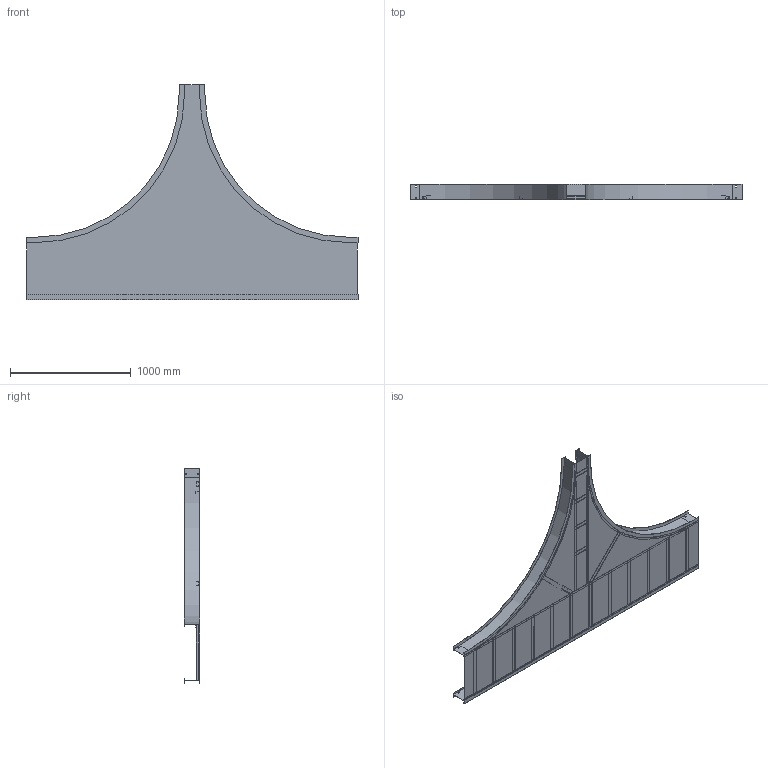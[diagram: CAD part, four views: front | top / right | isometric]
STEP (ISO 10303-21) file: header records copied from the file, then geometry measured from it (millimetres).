
FILE_DESCRIPTION((''),'2;1');
FILE_NAME('AHF51806SRT48_ASM','2010-02-10T',('erouzier'),(''),'PRO/ENGINEER BY PARAMETRIC TECHNOLOGY CORPORATION, 2008510','PRO/ENGINEER BY PARAMETRIC TECHNOLOGY CORPORATION, 2008510','');
FILE_SCHEMA(('CONFIG_CONTROL_DESIGN'));
Length unit declared in the file: inch
Products named in the file (22): CDS001811-5-90-48-I; CDS013846-5-108; CDS000495_GEN_AF9; CDS002159L18_AF16; CDS002159L18_AF17; CDS002159L18_AF18; CDS002159L18_AF19; CDS002159L18; CDS002159L18_AF20; CDS002159L18_AF21; CDS002159L18_AF22; CDS002159L18_AF23; CDS000495_GEN_AF10; CDS000495_GEN_AF11; CDS002159L24_AF4; CDS002159L24_AF5; CDS002159L6_AF4; CDS002159L6_AF5; CDS002159L6_AF6; CDS002159L6_AF7; CDS014192-18-48-6; AHF51806SRT48_ASM
Assembly tree (25 placements, depth 2):
  AHF51806SRT48_ASM
    CDS001811-5-90-48-I  x2
    CDS013846-5-108
    CDS000495_GEN_AF9
    CDS002159L18_AF16
    CDS002159L18_AF17
    CDS002159L18_AF18
    CDS002159L18_AF19
    CDS002159L18  x4
    CDS002159L18_AF20
    CDS002159L18_AF21
    CDS002159L18_AF22
    CDS002159L18_AF23
    CDS000495_GEN_AF10
    CDS000495_GEN_AF11
    CDS002159L24_AF4
    CDS002159L24_AF5
    CDS002159L6_AF4
    CDS002159L6_AF5
    CDS002159L6_AF6
    CDS002159L6_AF7
    CDS014192-18-48-6
Bounding box: 2747.26 x 129.54 x 1785.24 mm (x, y, z)
Volume: 6934515.3 mm3; surface area: 9446442.2 mm2
Topology: 25 solids, 25 shells, 696 faces, 1938 edges, 1292 vertices
Faces by surface type: plane 484, cylinder 212
Entity records: 18671 total; most frequent: CARTESIAN_POINT 3377, ORIENTED_EDGE 3132, DIRECTION 3090, EDGE_CURVE 1566, VECTOR 1220, LINE 1220, VERTEX_POINT 1044, AXIS2_PLACEMENT_3D 935
